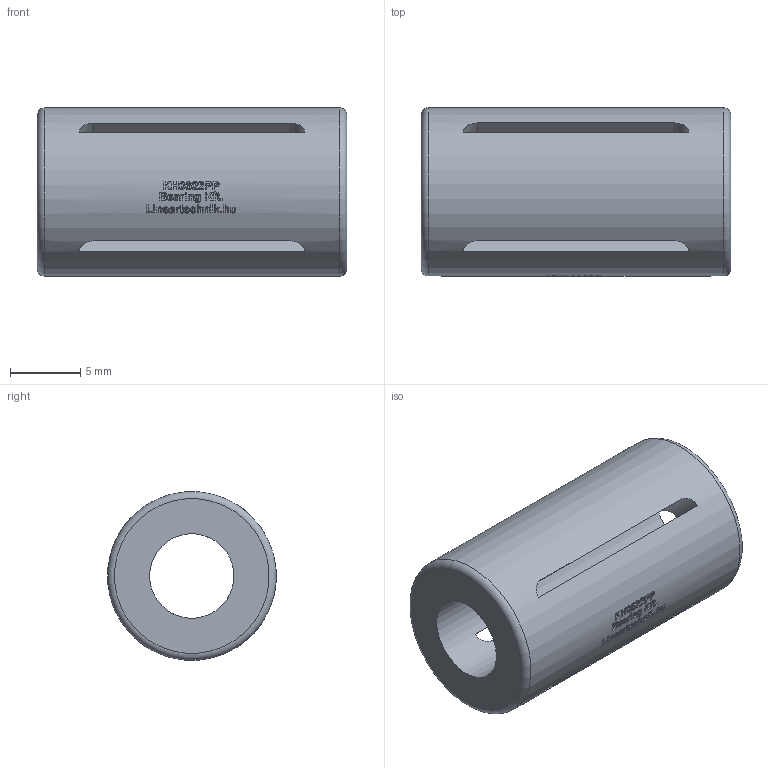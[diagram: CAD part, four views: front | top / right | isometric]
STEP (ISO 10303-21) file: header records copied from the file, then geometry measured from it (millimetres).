
FILE_DESCRIPTION(/* description */ (''),/* implementation_level */ '2;1');
FILE_NAME(/* name */ 'KH0622PP',/* time_stamp */ '2019-07-11T11:30:56+02:00',/* author */ ('VĂ©gh MĂˇtĂ©'),/* organization */ ('Bearing Kft'),/* preprocessor_version */ 'ST-DEVELOPER v16.7',/* originating_system */ 'DEX',/* authorisation */ $);
FILE_SCHEMA (('AUTOMOTIVE_DESIGN {1 0 10303 214 3 1 1}'));
Length unit declared in the file: millimetre
Products named in the file (1): KH0622PP
Bounding box: 22 x 11.98 x 11.95 mm (x, y, z)
Volume: 1673.2 mm3; surface area: 1682.1 mm2
Topology: 1 solids, 1 shells, 332 faces, 840 edges, 558 vertices
Faces by surface type: plane 171, bspline 99, cylinder 60, torus 2
Full cylindrical faces by diameter (mm): 6 x1, 12 x1
Entity records: 13785 total; most frequent: CARTESIAN_POINT 6325, ORIENTED_EDGE 1660, DIRECTION 1236, EDGE_CURVE 830, VERTEX_POINT 558, LINE 460, VECTOR 460, EDGE_LOOP 400
